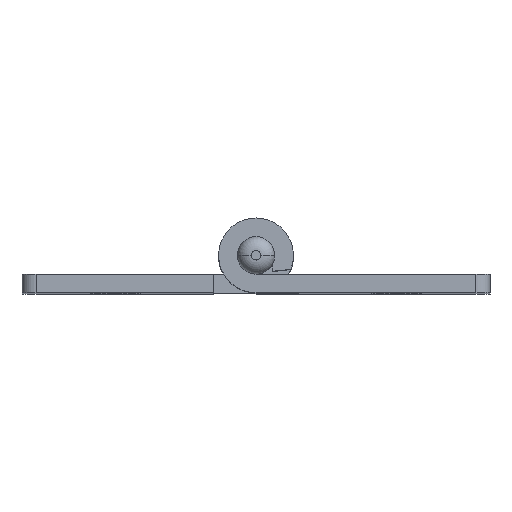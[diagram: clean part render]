
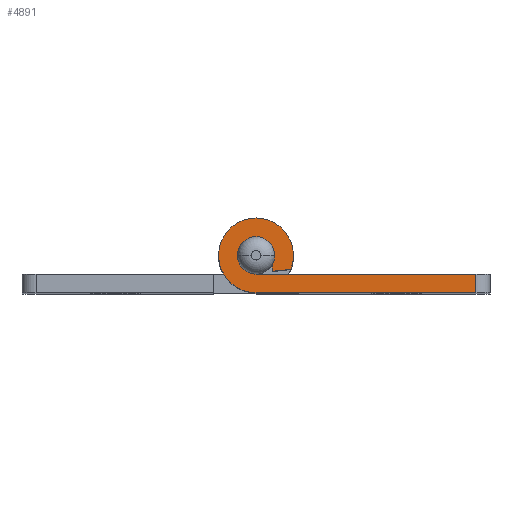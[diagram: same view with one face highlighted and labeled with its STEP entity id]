
A CAD part, top view. The second image highlights one B-rep face of the part: STEP entity #4891.
In plain terms, the highlighted planar face has unit normal (0, 0, 1).
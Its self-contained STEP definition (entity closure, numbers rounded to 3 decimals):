
#10 = EDGE_CURVE ( 'NONE', #7509, #1417, #320, .T. ) ;
#133 = DIRECTION ( 'NONE',  ( 1., 0., 0. ) ) ;
#228 = DIRECTION ( 'NONE',  ( 1., 0., 0. ) ) ;
#320 = LINE ( 'NONE', #6302, #6547 ) ;
#709 = CARTESIAN_POINT ( 'NONE',  ( 1.73, -1.003, 75. ) ) ;
#715 = CARTESIAN_POINT ( 'NONE',  ( 1.73, -1.7, 75. ) ) ;
#719 = VERTEX_POINT ( 'NONE', #2977 ) ;
#773 = EDGE_CURVE ( 'NONE', #1417, #719, #5212, .T. ) ;
#890 = CIRCLE ( 'NONE', #2799, 2. ) ;
#966 = CARTESIAN_POINT ( 'NONE',  ( -4., 0., 75. ) ) ;
#998 = ORIENTED_EDGE ( 'NONE', *, *, #5532, .T. ) ;
#1063 = VERTEX_POINT ( 'NONE', #7406 ) ;
#1146 = AXIS2_PLACEMENT_3D ( 'NONE', #5053, #1440, #5666 ) ;
#1281 = CARTESIAN_POINT ( 'NONE',  ( 1.73, -1.003, 75. ) ) ;
#1326 = LINE ( 'NONE', #2121, #7515 ) ;
#1407 = EDGE_CURVE ( 'NONE', #1063, #7509, #7064, .T. ) ;
#1417 = VERTEX_POINT ( 'NONE', #6624 ) ;
#1440 = DIRECTION ( 'NONE',  ( 0., 0., 1. ) ) ;
#1474 = DIRECTION ( 'NONE',  ( -1., 0., 0. ) ) ;
#1675 = VERTEX_POINT ( 'NONE', #4673 ) ;
#1707 = ORIENTED_EDGE ( 'NONE', *, *, #5112, .T. ) ;
#1790 = LINE ( 'NONE', #7436, #4814 ) ;
#1815 = DIRECTION ( 'NONE',  ( 0., 0., 1. ) ) ;
#1901 = FACE_OUTER_BOUND ( 'NONE', #2076, .T. ) ;
#2048 = DIRECTION ( 'NONE',  ( 1., 0., 0. ) ) ;
#2058 = ORIENTED_EDGE ( 'NONE', *, *, #7041, .T. ) ;
#2068 = CARTESIAN_POINT ( 'NONE',  ( 23.5, -2., 75. ) ) ;
#2076 = EDGE_LOOP ( 'NONE', ( #3045, #6865, #3579, #3789, #998, #5462, #1707, #6115, #4759, #3131, #2058 ) ) ;
#2090 = VECTOR ( 'NONE', #6062, 1000. ) ;
#2121 = CARTESIAN_POINT ( 'NONE',  ( 1.73, -1.7, 75. ) ) ;
#2150 = CARTESIAN_POINT ( 'NONE',  ( 0., 0., 75. ) ) ;
#2198 = DIRECTION ( 'NONE',  ( 0., 0., -1. ) ) ;
#2305 = DIRECTION ( 'NONE',  ( 1., 0., 0. ) ) ;
#2461 = CARTESIAN_POINT ( 'NONE',  ( 4., 0., 75. ) ) ;
#2503 = AXIS2_PLACEMENT_3D ( 'NONE', #7412, #3846, #228 ) ;
#2733 = CARTESIAN_POINT ( 'NONE',  ( 0., 0., 75. ) ) ;
#2799 = AXIS2_PLACEMENT_3D ( 'NONE', #2733, #6923, #3357 ) ;
#2889 = DIRECTION ( 'NONE',  ( 1., 0., 0. ) ) ;
#2977 = CARTESIAN_POINT ( 'NONE',  ( -2., 0., 75. ) ) ;
#3000 = VERTEX_POINT ( 'NONE', #1281 ) ;
#3045 = ORIENTED_EDGE ( 'NONE', *, *, #7497, .T. ) ;
#3131 = ORIENTED_EDGE ( 'NONE', *, *, #7453, .T. ) ;
#3357 = DIRECTION ( 'NONE',  ( 1., 0., 0. ) ) ;
#3572 = AXIS2_PLACEMENT_3D ( 'NONE', #2150, #2198, #2305 ) ;
#3579 = ORIENTED_EDGE ( 'NONE', *, *, #10, .T. ) ;
#3746 = DIRECTION ( 'NONE',  ( 0., 0., -1. ) ) ;
#3789 = ORIENTED_EDGE ( 'NONE', *, *, #773, .T. ) ;
#3846 = DIRECTION ( 'NONE',  ( 0., 0., 1. ) ) ;
#3910 = CARTESIAN_POINT ( 'NONE',  ( 0., -4., 75. ) ) ;
#4127 = AXIS2_PLACEMENT_3D ( 'NONE', #7317, #3746, #133 ) ;
#4367 = LINE ( 'NONE', #709, #7149 ) ;
#4443 = VERTEX_POINT ( 'NONE', #715 ) ;
#4673 = CARTESIAN_POINT ( 'NONE',  ( 3.71, -1.495, 75. ) ) ;
#4759 = ORIENTED_EDGE ( 'NONE', *, *, #7115, .T. ) ;
#4806 = EDGE_CURVE ( 'NONE', #6735, #3000, #890, .T. ) ;
#4814 = VECTOR ( 'NONE', #2048, 1000. ) ;
#4891 = ADVANCED_FACE ( 'NONE', ( #1901 ), #7050, .T. ) ;
#5053 = CARTESIAN_POINT ( 'NONE',  ( 0., 0., 75. ) ) ;
#5112 = EDGE_CURVE ( 'NONE', #3000, #4443, #4367, .T. ) ;
#5186 = CIRCLE ( 'NONE', #1146, 4. ) ;
#5212 = CIRCLE ( 'NONE', #3572, 2. ) ;
#5225 = AXIS2_PLACEMENT_3D ( 'NONE', #5288, #6483, #2889 ) ;
#5288 = CARTESIAN_POINT ( 'NONE',  ( 0., 0., 75. ) ) ;
#5428 = CARTESIAN_POINT ( 'NONE',  ( 0., 0., 75. ) ) ;
#5457 = CARTESIAN_POINT ( 'NONE',  ( 23.5, -2., 75. ) ) ;
#5462 = ORIENTED_EDGE ( 'NONE', *, *, #4806, .T. ) ;
#5532 = EDGE_CURVE ( 'NONE', #719, #6735, #6052, .T. ) ;
#5568 = DIRECTION ( 'NONE',  ( 0., -1., 0. ) ) ;
#5666 = DIRECTION ( 'NONE',  ( 1., 0., 0. ) ) ;
#5751 = EDGE_CURVE ( 'NONE', #4443, #1675, #1326, .T. ) ;
#5900 = AXIS2_PLACEMENT_3D ( 'NONE', #5428, #1815, #6032 ) ;
#5998 = VERTEX_POINT ( 'NONE', #2461 ) ;
#6032 = DIRECTION ( 'NONE',  ( 1., 0., 0. ) ) ;
#6052 = CIRCLE ( 'NONE', #4127, 2. ) ;
#6062 = DIRECTION ( 'NONE',  ( 0., 1., 0. ) ) ;
#6115 = ORIENTED_EDGE ( 'NONE', *, *, #5751, .T. ) ;
#6302 = CARTESIAN_POINT ( 'NONE',  ( 0., -2., 75. ) ) ;
#6320 = DIRECTION ( 'NONE',  ( 0.995, 0.103, 0. ) ) ;
#6483 = DIRECTION ( 'NONE',  ( 0., 0., 1. ) ) ;
#6497 = CIRCLE ( 'NONE', #2503, 4. ) ;
#6547 = VECTOR ( 'NONE', #1474, 1000. ) ;
#6624 = CARTESIAN_POINT ( 'NONE',  ( 0., -2., 75. ) ) ;
#6735 = VERTEX_POINT ( 'NONE', #7626 ) ;
#6829 = VERTEX_POINT ( 'NONE', #966 ) ;
#6865 = ORIENTED_EDGE ( 'NONE', *, *, #1407, .T. ) ;
#6871 = CIRCLE ( 'NONE', #5900, 4. ) ;
#6923 = DIRECTION ( 'NONE',  ( 0., 0., -1. ) ) ;
#7041 = EDGE_CURVE ( 'NONE', #6829, #7165, #6871, .T. ) ;
#7050 = PLANE ( 'NONE',  #5225 ) ;
#7064 = LINE ( 'NONE', #5457, #2090 ) ;
#7115 = EDGE_CURVE ( 'NONE', #1675, #5998, #6497, .T. ) ;
#7149 = VECTOR ( 'NONE', #5568, 1000. ) ;
#7165 = VERTEX_POINT ( 'NONE', #3910 ) ;
#7317 = CARTESIAN_POINT ( 'NONE',  ( 0., 0., 75. ) ) ;
#7406 = CARTESIAN_POINT ( 'NONE',  ( 23.5, -4., 75. ) ) ;
#7412 = CARTESIAN_POINT ( 'NONE',  ( 0., 0., 75. ) ) ;
#7436 = CARTESIAN_POINT ( 'NONE',  ( 0., -4., 75. ) ) ;
#7453 = EDGE_CURVE ( 'NONE', #5998, #6829, #5186, .T. ) ;
#7497 = EDGE_CURVE ( 'NONE', #7165, #1063, #1790, .T. ) ;
#7509 = VERTEX_POINT ( 'NONE', #2068 ) ;
#7515 = VECTOR ( 'NONE', #6320, 1000. ) ;
#7626 = CARTESIAN_POINT ( 'NONE',  ( 2., 0., 75. ) ) ;
